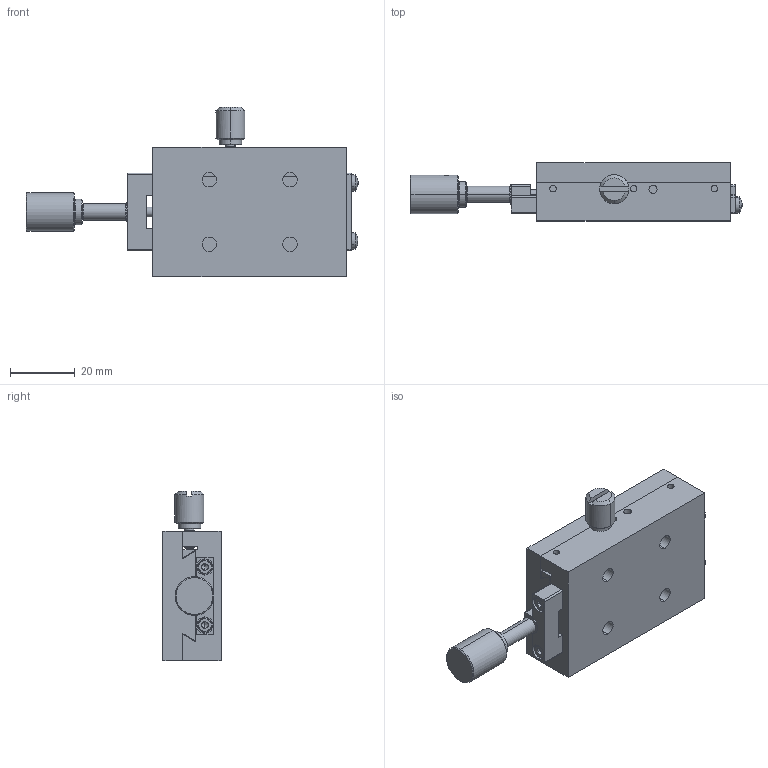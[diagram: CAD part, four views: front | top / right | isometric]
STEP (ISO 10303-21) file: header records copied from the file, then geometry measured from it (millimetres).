
FILE_DESCRIPTION (( 'STEP AP203' ), '1' );
FILE_NAME ('BLBS60.STEP', '2024-02-26T06:41:20', ( 'China' ), ( 'Microsoft' ), 'SwSTEP 2.0', 'SolidWorks 2024', '' );
FILE_SCHEMA (( 'CONFIG_CONTROL_DESIGN' ));
Length unit declared in the file: millimetre
Products named in the file (1): BLBS60
Bounding box: 102.87 x 18 x 52.4 mm (x, y, z)
Volume: 43527.6 mm3; surface area: 22659 mm2
Topology: 16 solids, 16 shells, 1302 faces, 3536 edges, 2298 vertices
Faces by surface type: plane 743, bspline 243, cylinder 231, cone 75, torus 6, sphere 4
Entity records: 58710 total; most frequent: CARTESIAN_POINT 28968, ORIENTED_EDGE 7016, DIRECTION 4705, EDGE_CURVE 3508, VERTEX_POINT 2298, VECTOR 1781, LINE 1781, AXIS2_PLACEMENT_3D 1462
